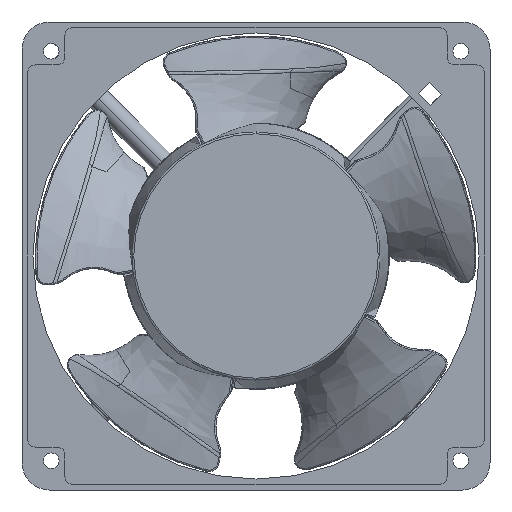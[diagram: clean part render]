
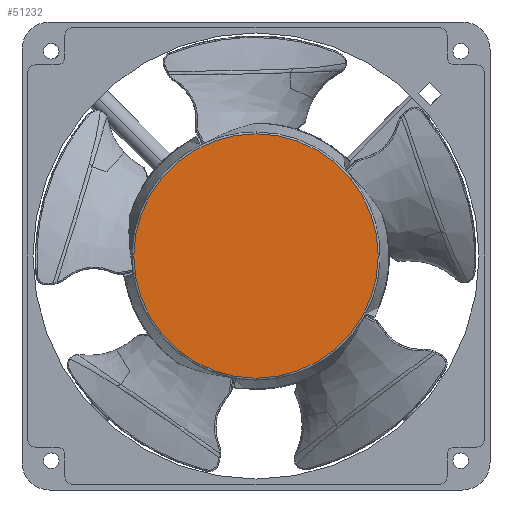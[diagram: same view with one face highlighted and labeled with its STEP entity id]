
A CAD part, front view. The second image highlights one B-rep face of the part: STEP entity #51232.
In plain terms, the highlighted planar face has unit normal (0, -1, 0) as drawn and (0, 0, -1) by its records, which use the part's own axes.
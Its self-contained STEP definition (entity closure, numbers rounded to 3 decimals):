
#40319=CARTESIAN_POINT('',(0.,0.,-0.2));
#40320=DIRECTION('',(0.,0.,1.));
#40321=DIRECTION('',(0.,-1.,0.));
#40322=AXIS2_PLACEMENT_3D('',#40319,#40320,#40321);
#40324=CARTESIAN_POINT('',(0.,0.,-0.2));
#40325=DIRECTION('',(0.,0.,1.));
#40326=DIRECTION('',(0.,1.,0.));
#40327=AXIS2_PLACEMENT_3D('',#40324,#40325,#40326);
#43128=CARTESIAN_POINT('',(0.,-31.329,-0.2));
#43129=CARTESIAN_POINT('',(0.,31.329,-0.2));
#43130=VERTEX_POINT('',#43128);
#43131=VERTEX_POINT('',#43129);
#51223=CARTESIAN_POINT('',(0.,0.,-0.2));
#51224=DIRECTION('',(0.,0.,-1.));
#51225=DIRECTION('',(-1.,0.,0.));
#51226=AXIS2_PLACEMENT_3D('',#51223,#51224,#51225);
#51227=PLANE('',#51226);
#51228=ORIENTED_EDGE('',*,*,#47341,.T.);
#51229=ORIENTED_EDGE('',*,*,#51210,.T.);
#51230=EDGE_LOOP('',(#51228,#51229));
#51231=FACE_OUTER_BOUND('',#51230,.F.);
#40323=CIRCLE('',#40322,31.329);
#40328=CIRCLE('',#40327,31.329);
#47341=EDGE_CURVE('',#43130,#43131,#40323,.T.);
#51210=EDGE_CURVE('',#43131,#43130,#40328,.T.);
#51232=ADVANCED_FACE('',(#51231),#51227,.T.);
